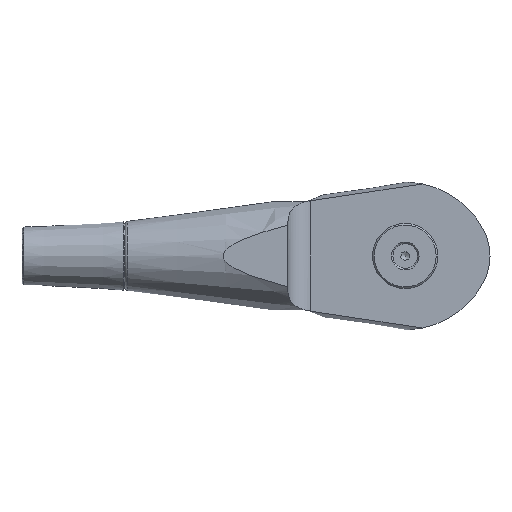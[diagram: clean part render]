
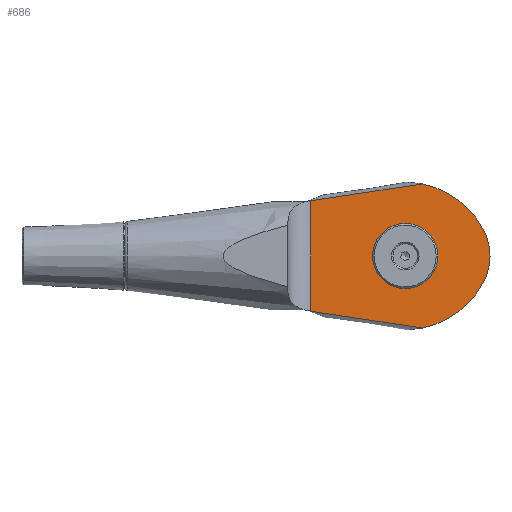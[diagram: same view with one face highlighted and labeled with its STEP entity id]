
A CAD part, front view. The second image highlights one B-rep face of the part: STEP entity #686.
In plain terms, the highlighted planar face has unit normal (0, -1, 0).
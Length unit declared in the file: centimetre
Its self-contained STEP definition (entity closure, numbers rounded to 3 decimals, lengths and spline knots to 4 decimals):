
#20=LINE('',#1197,#40);
#40=VECTOR('',#890,3.3847);
#65=(
BOUNDED_CURVE()
B_SPLINE_CURVE(2,(#1059,#1060,#1061),.UNSPECIFIED.,.F.,.F.)
B_SPLINE_CURVE_WITH_KNOTS((3,3),(0.,3.7104),.UNSPECIFIED.)
CURVE()
GEOMETRIC_REPRESENTATION_ITEM()
RATIONAL_B_SPLINE_CURVE((1.,1.012,1.008))
REPRESENTATION_ITEM('')
);
#69=(
BOUNDED_CURVE()
B_SPLINE_CURVE(2,(#1153,#1154,#1155),.UNSPECIFIED.,.F.,.F.)
B_SPLINE_CURVE_WITH_KNOTS((3,3),(1.8507,5.5611),
 .UNSPECIFIED.)
CURVE()
GEOMETRIC_REPRESENTATION_ITEM()
RATIONAL_B_SPLINE_CURVE((1.008,1.012,1.))
REPRESENTATION_ITEM('')
);
#112=FACE_BOUND('',#206,.T.);
#147=FACE_OUTER_BOUND('',#205,.T.);
#205=EDGE_LOOP('',(#494,#495,#496,#497,#498,#499));
#206=EDGE_LOOP('',(#500));
#271=CIRCLE('',#748,0.8);
#273=CIRCLE('',#751,2.7145);
#275=CIRCLE('',#754,2.7145);
#277=CIRCLE('',#757,1.75);
#309=VERTEX_POINT('',#1043);
#310=VERTEX_POINT('',#1058);
#321=VERTEX_POINT('',#1141);
#322=VERTEX_POINT('',#1152);
#324=VERTEX_POINT('',#1177);
#326=VERTEX_POINT('',#1182);
#328=VERTEX_POINT('',#1188);
#372=EDGE_CURVE('',#309,#310,#65,.T.);
#384=EDGE_CURVE('',#321,#322,#69,.T.);
#389=EDGE_CURVE('',#324,#324,#271,.T.);
#391=EDGE_CURVE('',#321,#326,#273,.T.);
#394=EDGE_CURVE('',#328,#310,#275,.T.);
#397=EDGE_CURVE('',#326,#328,#277,.T.);
#399=EDGE_CURVE('',#309,#322,#20,.T.);
#494=ORIENTED_EDGE('',*,*,#391,.T.);
#495=ORIENTED_EDGE('',*,*,#397,.T.);
#496=ORIENTED_EDGE('',*,*,#394,.T.);
#497=ORIENTED_EDGE('',*,*,#372,.F.);
#498=ORIENTED_EDGE('',*,*,#399,.T.);
#499=ORIENTED_EDGE('',*,*,#384,.F.);
#500=ORIENTED_EDGE('',*,*,#389,.T.);
#603=PLANE('',#759);
#686=ADVANCED_FACE('',(#147,#112),#603,.F.);
#748=AXIS2_PLACEMENT_3D('',#1178,#864,#865);
#751=AXIS2_PLACEMENT_3D('',#1183,#870,#871);
#754=AXIS2_PLACEMENT_3D('',#1189,#877,#878);
#757=AXIS2_PLACEMENT_3D('',#1194,#884,#885);
#759=AXIS2_PLACEMENT_3D('',#1196,#888,#889);
#864=DIRECTION('center_axis',(0.,1.,0.));
#865=DIRECTION('ref_axis',(-1.,0.,0.));
#870=DIRECTION('center_axis',(0.,-1.,0.));
#871=DIRECTION('ref_axis',(0.,0.,1.));
#877=DIRECTION('center_axis',(0.,-1.,0.));
#878=DIRECTION('ref_axis',(-0.881,0.,-0.473));
#884=DIRECTION('center_axis',(0.,-1.,0.));
#885=DIRECTION('ref_axis',(-0.881,0.,0.473));
#888=DIRECTION('center_axis',(0.,1.,0.));
#889=DIRECTION('ref_axis',(-1.,0.,0.));
#890=DIRECTION('',(0.,0.,-1.));
#1043=CARTESIAN_POINT('',(-2.9,-0.75,1.6923));
#1058=CARTESIAN_POINT('',(0.5216,-0.75,2.2081));
#1059=CARTESIAN_POINT('Ctrl Pts',(-2.9,-0.75,1.6923));
#1060=CARTESIAN_POINT('Ctrl Pts',(-1.4154,-0.75,1.9206));
#1061=CARTESIAN_POINT('Ctrl Pts',(0.5216,-0.75,2.2081));
#1141=CARTESIAN_POINT('',(0.5216,-0.75,-2.2081));
#1152=CARTESIAN_POINT('',(-2.9,-0.75,-1.6923));
#1153=CARTESIAN_POINT('Ctrl Pts',(0.5216,-0.75,-2.2081));
#1154=CARTESIAN_POINT('Ctrl Pts',(-1.4154,-0.75,-1.9206));
#1155=CARTESIAN_POINT('Ctrl Pts',(-2.9,-0.75,-1.6923));
#1177=CARTESIAN_POINT('',(0.8,-0.75,0.));
#1178=CARTESIAN_POINT('Origin',(0.,-0.75,0.));
#1182=CARTESIAN_POINT('',(2.3922,-0.75,-0.8271));
#1183=CARTESIAN_POINT('Origin',(0.,-0.75,0.4559));
#1188=CARTESIAN_POINT('',(2.3922,-0.75,0.8271));
#1189=CARTESIAN_POINT('Origin',(0.,-0.75,-0.4559));
#1194=CARTESIAN_POINT('Origin',(0.85,-0.75,0.));
#1196=CARTESIAN_POINT('Origin',(2.6,-0.75,0.));
#1197=CARTESIAN_POINT('',(-2.9,-0.75,0.));
